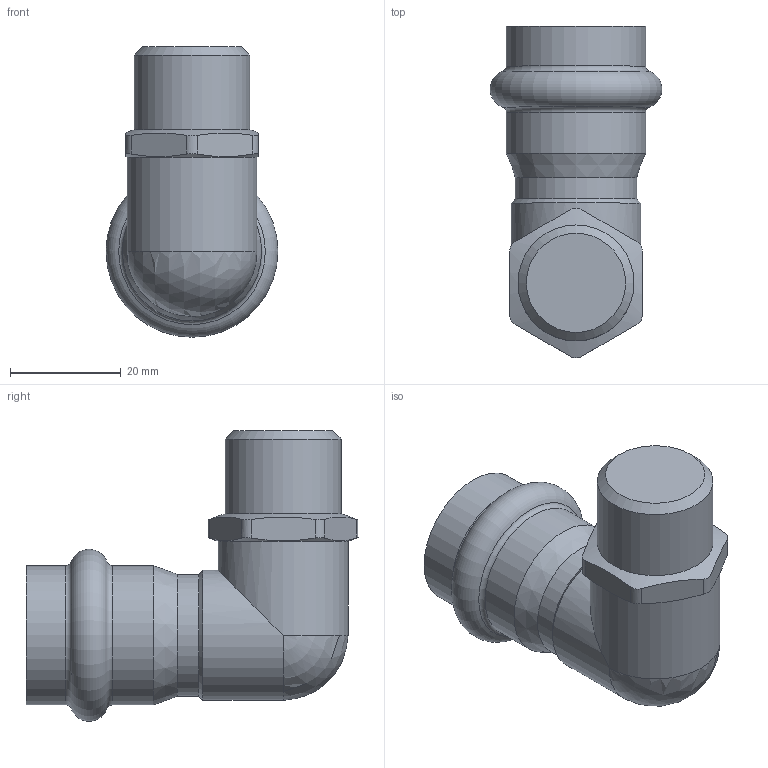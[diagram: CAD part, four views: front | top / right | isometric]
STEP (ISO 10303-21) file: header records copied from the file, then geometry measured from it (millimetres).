
FILE_DESCRIPTION(('STEP AP203'), '1');
FILE_NAME('VTi.953.I.002204', '', ('UNSPECIFIED'), ('UNSPECIFIED'), 'C3D Converter', 'C3D Toolkit', '');
FILE_SCHEMA(('CONFIG_CONTROL_DESIGN'));
Length unit declared in the file: millimetre
Bounding box: 31.09 x 60.04 x 52.55 mm (x, y, z)
Volume: 37218.2 mm3; surface area: 7357.2 mm2
Topology: 1 solids, 1 shells, 29 faces, 71 edges, 42 vertices
Faces by surface type: cylinder 12, plane 8, cone 5, torus 3, sphere 1
Full cylindrical faces by diameter (mm): 20.955 x1, 22 x1, 23.5 x2, 25.2 x2
Entity records: 1491 total; most frequent: CARTESIAN_POINT 880, ORIENTED_EDGE 110, DIRECTION 104, EDGE_CURVE 55, AXIS2_PLACEMENT_3D 46, EDGE_LOOP 43, VERTEX_POINT 42, ADVANCED_FACE 29
